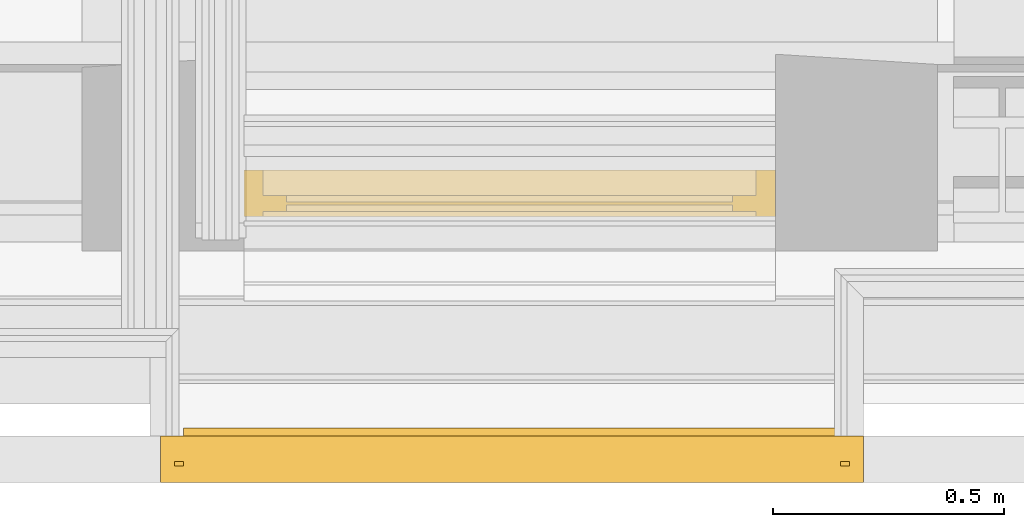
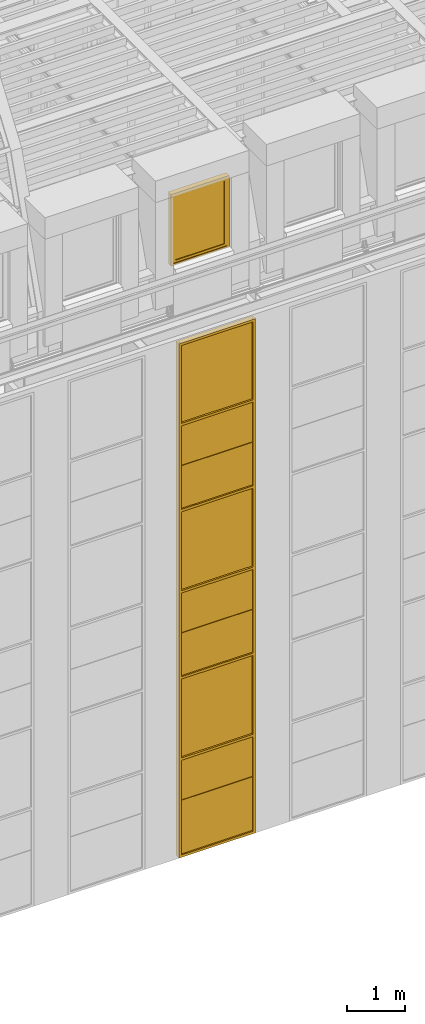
# One storey, part 109 of 183: 1 curtain wall, 1 window.
"""IFC2X3 building model written with IfcOpenShell, lengths in metres."""

from ifc_helpers import new_model, entity, si_unit, converted_unit, derived_unit, money_unit, direction, frame, origin_with_axes, place, context, subcontext, project, spatial, faceted_brep, material, type_object, element, save


model = new_model("IFC2X3")

# Units and contexts
model_context = context("Model", 3, precision=1e-05, world=origin_with_axes(), true_north=direction((0.0, 1.0)))
body_context = subcontext(model_context, "Body", "Model", "MODEL_VIEW", scale=1.0)
ifc_project = project(units=[si_unit("LENGTHUNIT", "METRE"), si_unit("AREAUNIT", "SQUARE_METRE"), si_unit("VOLUMEUNIT", "CUBIC_METRE"), si_unit("ABSORBEDDOSEUNIT", "GRAY"), si_unit("AMOUNTOFSUBSTANCEUNIT", "MOLE"), si_unit("DOSEEQUIVALENTUNIT", "SIEVERT"), si_unit("ELECTRICCAPACITANCEUNIT", "FARAD"), si_unit("ELECTRICCHARGEUNIT", "COULOMB"), si_unit("ELECTRICCONDUCTANCEUNIT", "SIEMENS"), si_unit("ELECTRICCURRENTUNIT", "AMPERE"), si_unit("ELECTRICRESISTANCEUNIT", "OHM"), si_unit("ELECTRICVOLTAGEUNIT", "VOLT"), si_unit("ENERGYUNIT", "JOULE"), si_unit("FORCEUNIT", "NEWTON"), si_unit("FREQUENCYUNIT", "HERTZ"), si_unit("ILLUMINANCEUNIT", "LUX"), si_unit("INDUCTANCEUNIT", "HENRY"), si_unit("LUMINOUSFLUXUNIT", "LUMEN"), si_unit("LUMINOUSINTENSITYUNIT", "CANDELA"), si_unit("MAGNETICFLUXDENSITYUNIT", "TESLA"), si_unit("MAGNETICFLUXUNIT", "WEBER"), si_unit("MASSUNIT", "GRAM"), converted_unit("PLANEANGLEUNIT", "degree", entity("IfcReal", 0.0174532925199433), si_unit("PLANEANGLEUNIT", "RADIAN"), dimensions=[0, 0, 0, 0, 0, 0, 0]), si_unit("POWERUNIT", "WATT"), si_unit("PRESSUREUNIT", "PASCAL"), si_unit("RADIOACTIVITYUNIT", "BECQUEREL"), si_unit("SOLIDANGLEUNIT", "STERADIAN"), si_unit("THERMODYNAMICTEMPERATUREUNIT", "KELVIN"), si_unit("TIMEUNIT", "SECOND"), derived_unit("ACCELERATIONUNIT", [(si_unit("LENGTHUNIT", "METRE"), 1), (si_unit("TIMEUNIT", "SECOND"), -2)]), derived_unit("ANGULARVELOCITYUNIT", [(converted_unit("PLANEANGLEUNIT", "degree", entity("IfcReal", 0.0174532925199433), si_unit("PLANEANGLEUNIT", "RADIAN"), dimensions=[0, 0, 0, 0, 0, 0, 0]), 1), (si_unit("TIMEUNIT", "SECOND"), -1)]), derived_unit("CURVATUREUNIT", [(converted_unit("PLANEANGLEUNIT", "degree", entity("IfcReal", 0.0174532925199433), si_unit("PLANEANGLEUNIT", "RADIAN"), dimensions=[0, 0, 0, 0, 0, 0, 0]), 1), (si_unit("LENGTHUNIT", "METRE"), -1)]), derived_unit("DYNAMICVISCOSITYUNIT", [(si_unit("PRESSUREUNIT", "PASCAL"), 1), (si_unit("TIMEUNIT", "SECOND"), 1)]), derived_unit("HEATFLUXDENSITYUNIT", [(si_unit("POWERUNIT", "WATT"), 1), (si_unit("LENGTHUNIT", "METRE"), -2)]), derived_unit("HEATINGVALUEUNIT", [(si_unit("ENERGYUNIT", "JOULE"), 1), (si_unit("MASSUNIT", "GRAM"), -1)]), derived_unit("INTEGERCOUNTRATEUNIT", [(si_unit("TIMEUNIT", "SECOND"), -1)]), derived_unit("IONCONCENTRATIONUNIT", [(si_unit("MASSUNIT", "GRAM"), 1), (si_unit("VOLUMEUNIT", "CUBIC_METRE"), -1)]), derived_unit("ISOTHERMALMOISTURECAPACITYUNIT", [(si_unit("VOLUMEUNIT", "CUBIC_METRE"), 1), (si_unit("MASSUNIT", "GRAM"), -1)]), derived_unit("KINEMATICVISCOSITYUNIT", [(si_unit("AREAUNIT", "SQUARE_METRE"), 1), (si_unit("TIMEUNIT", "SECOND"), -1)]), derived_unit("LINEARFORCEUNIT", [(si_unit("FORCEUNIT", "NEWTON"), 1), (si_unit("LENGTHUNIT", "METRE"), -1)]), derived_unit("LINEARMOMENTUNIT", [(si_unit("FORCEUNIT", "NEWTON"), 1), (si_unit("LENGTHUNIT", "METRE"), -1)]), derived_unit("LINEARSTIFFNESSUNIT", [(si_unit("FORCEUNIT", "NEWTON"), 1), (si_unit("LENGTHUNIT", "METRE"), -1)]), derived_unit("LINEARVELOCITYUNIT", [(si_unit("LENGTHUNIT", "METRE"), 1), (si_unit("TIMEUNIT", "SECOND"), -1)]), derived_unit("LUMINOUSINTENSITYDISTRIBUTIONUNIT", [(si_unit("LUMINOUSINTENSITYUNIT", "CANDELA"), 1), (si_unit("LUMINOUSFLUXUNIT", "LUMEN"), -1)]), derived_unit("MASSDENSITYUNIT", [(si_unit("MASSUNIT", "GRAM"), 1), (si_unit("VOLUMEUNIT", "CUBIC_METRE"), -1)]), derived_unit("MASSFLOWRATEUNIT", [(si_unit("MASSUNIT", "GRAM"), 1), (si_unit("TIMEUNIT", "SECOND"), -1)]), derived_unit("MASSPERLENGTHUNIT", [(si_unit("MASSUNIT", "GRAM"), 1), (si_unit("LENGTHUNIT", "METRE"), -1)]), derived_unit("MODULUSOFELASTICITYUNIT", [(si_unit("FORCEUNIT", "NEWTON"), 1), (si_unit("AREAUNIT", "SQUARE_METRE"), -1)]), derived_unit("MODULUSOFLINEARSUBGRADEREACTIONUNIT", [(si_unit("FORCEUNIT", "NEWTON"), 1), (si_unit("LENGTHUNIT", "METRE"), -2)]), derived_unit("MODULUSOFROTATIONALSUBGRADEREACTIONUNIT", [(si_unit("FORCEUNIT", "NEWTON"), 1), (si_unit("LENGTHUNIT", "METRE"), 1)]), derived_unit("MODULUSOFSUBGRADEREACTIONUNIT", [(si_unit("FORCEUNIT", "NEWTON"), 1), (si_unit("VOLUMEUNIT", "CUBIC_METRE"), -1)]), derived_unit("MOISTUREDIFFUSIVITYUNIT", [(si_unit("VOLUMEUNIT", "CUBIC_METRE"), 1), (si_unit("TIMEUNIT", "SECOND"), -1)]), derived_unit("MOLECULARWEIGHTUNIT", [(si_unit("MASSUNIT", "GRAM"), 1), (si_unit("AMOUNTOFSUBSTANCEUNIT", "MOLE"), -1)]), derived_unit("PLANARFORCEUNIT", [(si_unit("FORCEUNIT", "NEWTON"), 1), (si_unit("LENGTHUNIT", "METRE"), -2)]), derived_unit("ROTATIONALFREQUENCYUNIT", [(si_unit("TIMEUNIT", "SECOND"), -1)]), derived_unit("ROTATIONALMASSUNIT", [(si_unit("MASSUNIT", "GRAM"), 1), (si_unit("LENGTHUNIT", "METRE"), 2)]), derived_unit("ROTATIONALSTIFFNESSUNIT", [(si_unit("FORCEUNIT", "NEWTON"), 1), (si_unit("LENGTHUNIT", "METRE"), 1), (converted_unit("PLANEANGLEUNIT", "degree", entity("IfcReal", 0.0174532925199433), si_unit("PLANEANGLEUNIT", "RADIAN"), dimensions=[0, 0, 0, 0, 0, 0, 0]), -1)]), derived_unit("SECTIONAREAINTEGRALUNIT", [(si_unit("LENGTHUNIT", "METRE"), 5)]), derived_unit("SECTIONMODULUSUNIT", [(si_unit("LENGTHUNIT", "METRE"), 3)]), derived_unit("SHEARMODULUSUNIT", [(si_unit("FORCEUNIT", "NEWTON"), 1), (si_unit("AREAUNIT", "SQUARE_METRE"), -1)]), derived_unit("SOUNDPOWERUNIT", [(si_unit("ENERGYUNIT", "JOULE"), 1), (si_unit("TIMEUNIT", "SECOND"), -1)]), derived_unit("SPECIFICHEATCAPACITYUNIT", [(si_unit("FORCEUNIT", "NEWTON"), 1), (si_unit("MASSUNIT", "GRAM"), -1), (si_unit("THERMODYNAMICTEMPERATUREUNIT", "KELVIN"), -1)]), derived_unit("TEMPERATUREGRADIENTUNIT", [(si_unit("THERMODYNAMICTEMPERATUREUNIT", "KELVIN"), 1), (si_unit("LENGTHUNIT", "METRE"), -1)]), derived_unit("THERMALADMITTANCEUNIT", [(si_unit("POWERUNIT", "WATT"), 1), (si_unit("AREAUNIT", "SQUARE_METRE"), -1), (si_unit("THERMODYNAMICTEMPERATUREUNIT", "KELVIN"), -1)]), derived_unit("THERMALCONDUCTANCEUNIT", [(si_unit("POWERUNIT", "WATT"), 1), (si_unit("LENGTHUNIT", "METRE"), -1), (si_unit("THERMODYNAMICTEMPERATUREUNIT", "KELVIN"), -1)]), derived_unit("THERMALEXPANSIONCOEFFICIENTUNIT", [(si_unit("THERMODYNAMICTEMPERATUREUNIT", "KELVIN"), -1)]), derived_unit("THERMALRESISTANCEUNIT", [(si_unit("AREAUNIT", "SQUARE_METRE"), 1), (si_unit("POWERUNIT", "WATT"), -1)]), derived_unit("THERMALTRANSMITTANCEUNIT", [(si_unit("POWERUNIT", "WATT"), 1), (si_unit("AREAUNIT", "SQUARE_METRE"), -1), (si_unit("THERMODYNAMICTEMPERATUREUNIT", "KELVIN"), -1)]), derived_unit("TORQUEUNIT", [(si_unit("FORCEUNIT", "NEWTON"), 1), (si_unit("LENGTHUNIT", "METRE"), 1)]), derived_unit("VAPORPERMEABILITYUNIT", [(si_unit("MASSUNIT", "GRAM"), 1), (si_unit("TIMEUNIT", "SECOND"), -1)]), derived_unit("VOLUMETRICFLOWRATEUNIT", [(si_unit("VOLUMEUNIT", "CUBIC_METRE"), 1), (si_unit("TIMEUNIT", "SECOND"), -1)]), derived_unit("WARPINGCONSTANTUNIT", [(si_unit("LENGTHUNIT", "METRE"), 6)]), derived_unit("WARPINGMOMENTUNIT", [(si_unit("FORCEUNIT", "NEWTON"), 1), (si_unit("LENGTHUNIT", "METRE"), 2)]), money_unit("GBP")], contexts=[model_context])

# Site, building, storey
site_placement = place(None, origin_with_axes())
site = spatial("IfcSite", under=ifc_project, at=site_placement, Name="Site", CompositionType="ELEMENT")
building_placement = place(site_placement, origin_with_axes())
building = spatial("IfcBuilding", under=site, at=building_placement, Name="Building01", CompositionType="ELEMENT")
storey_placement = place(building_placement, frame((0.0, 0.0, 5.15), z_axis=(0.0, 0.0, 1.0), x_axis=(1.0, 0.0, 0.0)))
storey = spatial("IfcBuildingStorey", under=building, at=storey_placement, Name="1F", CompositionType="ELEMENT", Elevation=5.15)

# Curtain wall
ifc_material_1 = material(Name="A-CurtainWall_Frame")
curtain_wall_type = type_object("IfcCurtainWallType", Name="Pattern - Maximum Spacing", PredefinedType="NOTDEFINED")
curtain_wall_placement = place(storey_placement, frame((0.0, 0.0, -5.15), z_axis=(0.0, 0.0, 1.0), x_axis=(1.0, 0.0, 0.0)))
element("IfcCurtainWall", 1, at=curtain_wall_placement, inside=storey, type_object=curtain_wall_type, material=ifc_material_1, Name="19", ObjectType="Pattern - Maximum Spacing", context=body_context, shape_type="Brep", body=[
    faceted_brep([(7.3, 0.05, 4.0), (7.3, 0.03, 4.0), (7.3, 0.03, 5.118945), (7.3, 0.05, 5.118945), (8.76, 0.05, 4.0), (8.76, 0.03, 4.0), (8.76, 0.05, 5.118945), (8.76, 0.03, 5.118945)], [[[0, 1, 2, 3]], [[4, 5, 1, 0]], [[6, 7, 5, 4]], [[3, 2, 7, 6]], [[1, 5, 7, 2]], [[3, 6, 4, 0]]]),
    faceted_brep([(7.32, 0.045, 3.97), (7.3, 0.045, 3.97), (7.3, 0.035, 3.97), (7.32, 0.035, 3.97), (7.32, 0.0, 3.97), (7.27, 0.0, 3.97), (7.27, 0.1, 3.97), (7.32, 0.1, 3.97), (7.32, 0.1, 5.123945), (7.32, 0.045, 5.123945), (7.3, 0.045, 5.123945), (7.3, 0.035, 5.123945), (7.32, 0.035, 5.123945), (7.32, 0.0, 5.123945), (7.27, 0.0, 5.123945), (7.27, 0.1, 5.123945)], [[[0, 1, 2, 3, 4, 5, 6, 7]], [[7, 8, 9, 0]], [[0, 9, 10, 1]], [[1, 10, 11, 2]], [[2, 11, 12, 3]], [[3, 12, 13, 4]], [[4, 13, 14, 5]], [[5, 14, 15, 6]], [[6, 15, 8, 7]]]),
    faceted_brep([(8.74, 0.045, 4.0), (8.74, 0.035, 4.0), (8.74, 0.035, 4.02), (8.74, 0.0, 4.02), (8.74, 0.0, 3.97), (8.74, 0.1, 3.97), (8.74, 0.1, 4.02), (8.74, 0.045, 4.02), (7.32, 0.045, 4.02), (7.32, 0.045, 4.0), (7.32, 0.035, 4.0), (7.32, 0.035, 4.02), (7.32, 0.0, 4.02), (7.32, 0.0, 3.97), (7.32, 0.1, 3.97), (7.32, 0.1, 4.02)], [[[0, 1, 2, 3, 4, 5, 6, 7]], [[7, 8, 9, 0]], [[0, 9, 10, 1]], [[1, 10, 11, 2]], [[2, 11, 12, 3]], [[3, 12, 13, 4]], [[4, 13, 14, 5]], [[5, 14, 15, 6]], [[6, 15, 8, 7]], [[8, 15, 14, 13, 12, 11, 10, 9]]]),
    faceted_brep([(8.74, 0.045, 3.97), (8.74, 0.045, 5.123945), (8.74, 0.1, 5.123945), (8.74, 0.1, 3.97), (8.76, 0.045, 3.97), (8.76, 0.045, 5.123945), (8.76, 0.035, 3.97), (8.76, 0.035, 5.123945), (8.74, 0.035, 3.97), (8.74, 0.035, 5.123945), (8.74, 0.0, 3.97), (8.74, 0.0, 5.123945), (8.79, 0.0, 3.97), (8.79, 0.0, 5.123945), (8.79, 0.1, 3.97), (8.79, 0.1, 5.123945)], [[[0, 1, 2, 3]], [[4, 5, 1, 0]], [[6, 7, 5, 4]], [[8, 9, 7, 6]], [[10, 11, 9, 8]], [[12, 13, 11, 10]], [[14, 15, 13, 12]], [[3, 2, 15, 14]], [[14, 12, 10, 8, 6, 4, 0, 3]]]),
    faceted_brep([(7.32, 0.0625, 5.118945), (7.32, 0.0525, 5.118945), (7.32, 0.0525, 5.098945), (7.32, 0.0175, 5.098945), (7.32, 0.0175, 5.148945), (7.32, 0.0525, 5.148945), (7.32, 0.0525, 5.128945), (7.32, 0.0625, 5.128945), (7.32, 0.0625, 5.148945), (7.32, 0.1175, 5.148945), (7.32, 0.1175, 5.098945), (7.32, 0.0625, 5.098945), (8.74, 0.0625, 5.098945), (8.74, 0.0625, 5.118945), (8.74, 0.0525, 5.118945), (8.74, 0.0525, 5.098945), (8.74, 0.0175, 5.098945), (8.74, 0.0175, 5.148945), (8.74, 0.0525, 5.148945), (8.74, 0.0625, 5.128945), (8.74, 0.0625, 5.148945), (8.74, 0.0525, 5.128945), (8.74, 0.1175, 5.098945), (8.74, 0.1175, 5.148945)], [[[0, 1, 2, 3, 4, 5, 6, 7, 8, 9, 10, 11]], [[11, 12, 13, 0]], [[0, 13, 14, 1]], [[1, 14, 15, 2]], [[2, 15, 16, 3]], [[3, 16, 17, 4]], [[4, 17, 18, 5]], [[7, 19, 20, 8]], [[6, 21, 19, 7]], [[5, 18, 21, 6]], [[10, 22, 12, 11]], [[9, 23, 22, 10]], [[8, 20, 23, 9]], [[20, 19, 21, 18, 17, 16, 15, 14, 13, 12, 22, 23]]]),
    faceted_brep([(7.3, 0.05, 5.128945), (7.3, 0.03, 5.128945), (7.3, 0.03, 6.018105), (7.3, 0.05, 6.018105), (8.76, 0.05, 5.128945), (8.76, 0.03, 5.128945), (8.76, 0.05, 6.018105), (8.76, 0.03, 6.018105)], [[[0, 1, 2, 3]], [[4, 5, 1, 0]], [[6, 7, 5, 4]], [[3, 2, 7, 6]], [[1, 5, 7, 2]], [[3, 6, 4, 0]]]),
    faceted_brep([(7.27, 0.1, 6.023105), (7.27, 0.1, 5.123945), (7.27, 0.0, 5.123945), (7.27, 0.0, 6.023105), (7.32, 0.1, 6.023105), (7.32, 0.1, 5.123945), (7.32, 0.045, 6.023105), (7.32, 0.045, 5.123945), (7.3, 0.045, 6.023105), (7.3, 0.045, 5.123945), (7.3, 0.035, 6.023105), (7.3, 0.035, 5.123945), (7.32, 0.035, 6.023105), (7.32, 0.035, 5.123945), (7.32, 0.0, 6.023105), (7.32, 0.0, 5.123945)], [[[0, 1, 2, 3]], [[4, 5, 1, 0]], [[6, 7, 5, 4]], [[8, 9, 7, 6]], [[10, 11, 9, 8]], [[12, 13, 11, 10]], [[14, 15, 13, 12]], [[3, 2, 15, 14]]]),
    faceted_brep([(8.74, 0.045, 5.123945), (8.74, 0.045, 6.023105), (8.74, 0.1, 6.023105), (8.74, 0.1, 5.123945), (8.76, 0.045, 5.123945), (8.76, 0.045, 6.023105), (8.76, 0.035, 5.123945), (8.76, 0.035, 6.023105), (8.74, 0.035, 5.123945), (8.74, 0.035, 6.023105), (8.74, 0.0, 5.123945), (8.74, 0.0, 6.023105), (8.79, 0.0, 5.123945), (8.79, 0.0, 6.023105), (8.79, 0.1, 5.123945), (8.79, 0.1, 6.023105)], [[[0, 1, 2, 3]], [[4, 5, 1, 0]], [[6, 7, 5, 4]], [[8, 9, 7, 6]], [[10, 11, 9, 8]], [[12, 13, 11, 10]], [[14, 15, 13, 12]], [[3, 2, 15, 14]]]),
    faceted_brep([(7.32, 0.045, 6.018105), (7.32, 0.035, 6.018105), (7.32, 0.035, 5.998105), (7.32, 0.0, 5.998105), (7.32, 0.0, 6.048105), (7.32, 0.035, 6.048105), (7.32, 0.035, 6.028105), (7.32, 0.045, 6.028105), (7.32, 0.045, 6.048105), (7.32, 0.1, 6.048105), (7.32, 0.1, 5.998105), (7.32, 0.045, 5.998105), (8.74, 0.045, 5.998105), (8.74, 0.045, 6.018105), (8.74, 0.035, 6.018105), (8.74, 0.035, 5.998105), (8.74, 0.0, 5.998105), (8.74, 0.0, 6.048105), (8.74, 0.035, 6.048105), (8.74, 0.045, 6.028105), (8.74, 0.045, 6.048105), (8.74, 0.035, 6.028105), (8.74, 0.1, 5.998105), (8.74, 0.1, 6.048105)], [[[0, 1, 2, 3, 4, 5, 6, 7, 8, 9, 10, 11]], [[11, 12, 13, 0]], [[0, 13, 14, 1]], [[1, 14, 15, 2]], [[2, 15, 16, 3]], [[3, 16, 17, 4]], [[4, 17, 18, 5]], [[7, 19, 20, 8]], [[6, 21, 19, 7]], [[5, 18, 21, 6]], [[10, 22, 12, 11]], [[9, 23, 22, 10]], [[8, 20, 23, 9]], [[20, 19, 21, 18, 17, 16, 15, 14, 13, 12, 22, 23]]]),
    faceted_brep([(7.3, 0.045, 6.028105), (7.3, 0.035, 6.028105), (7.3, 0.035, 7.716517), (7.3, 0.045, 7.716517), (8.76, 0.045, 6.028105), (8.76, 0.035, 6.028105), (8.76, 0.045, 7.716517), (8.76, 0.035, 7.716517)], [[[0, 1, 2, 3]], [[4, 5, 1, 0]], [[6, 7, 5, 4]], [[3, 2, 7, 6]], [[1, 5, 7, 2]], [[3, 6, 4, 0]]]),
    faceted_brep([(7.27, 0.1, 7.721517), (7.27, 0.1, 6.023105), (7.27, 0.0, 6.023105), (7.27, 0.0, 7.721517), (7.32, 0.1, 7.721517), (7.32, 0.1, 6.023105), (7.32, 0.045, 7.721517), (7.32, 0.045, 6.023105), (7.3, 0.045, 7.721517), (7.3, 0.045, 6.023105), (7.3, 0.035, 7.721517), (7.3, 0.035, 6.023105), (7.32, 0.035, 7.721517), (7.32, 0.035, 6.023105), (7.32, 0.0, 7.721517), (7.32, 0.0, 6.023105)], [[[0, 1, 2, 3]], [[4, 5, 1, 0]], [[6, 7, 5, 4]], [[8, 9, 7, 6]], [[10, 11, 9, 8]], [[12, 13, 11, 10]], [[14, 15, 13, 12]], [[3, 2, 15, 14]]]),
    faceted_brep([(8.74, 0.045, 6.023105), (8.74, 0.045, 7.721517), (8.74, 0.1, 7.721517), (8.74, 0.1, 6.023105), (8.76, 0.045, 6.023105), (8.76, 0.045, 7.721517), (8.76, 0.035, 6.023105), (8.76, 0.035, 7.721517), (8.74, 0.035, 6.023105), (8.74, 0.035, 7.721517), (8.74, 0.0, 6.023105), (8.74, 0.0, 7.721517), (8.79, 0.0, 6.023105), (8.79, 0.0, 7.721517), (8.79, 0.1, 6.023105), (8.79, 0.1, 7.721517)], [[[0, 1, 2, 3]], [[4, 5, 1, 0]], [[6, 7, 5, 4]], [[8, 9, 7, 6]], [[10, 11, 9, 8]], [[12, 13, 11, 10]], [[14, 15, 13, 12]], [[3, 2, 15, 14]]]),
    faceted_brep([(7.32, 0.045, 7.716517), (7.32, 0.035, 7.716517), (7.32, 0.035, 7.696517), (7.32, 0.0, 7.696517), (7.32, 0.0, 7.746517), (7.32, 0.035, 7.746517), (7.32, 0.035, 7.726517), (7.32, 0.045, 7.726517), (7.32, 0.045, 7.746517), (7.32, 0.1, 7.746517), (7.32, 0.1, 7.696517), (7.32, 0.045, 7.696517), (8.74, 0.045, 7.696517), (8.74, 0.045, 7.716517), (8.74, 0.035, 7.716517), (8.74, 0.035, 7.696517), (8.74, 0.0, 7.696517), (8.74, 0.0, 7.746517), (8.74, 0.035, 7.746517), (8.74, 0.045, 7.726517), (8.74, 0.045, 7.746517), (8.74, 0.035, 7.726517), (8.74, 0.1, 7.696517), (8.74, 0.1, 7.746517)], [[[0, 1, 2, 3, 4, 5, 6, 7, 8, 9, 10, 11]], [[11, 12, 13, 0]], [[0, 13, 14, 1]], [[1, 14, 15, 2]], [[2, 15, 16, 3]], [[3, 16, 17, 4]], [[4, 17, 18, 5]], [[7, 19, 20, 8]], [[6, 21, 19, 7]], [[5, 18, 21, 6]], [[10, 22, 12, 11]], [[9, 23, 22, 10]], [[8, 20, 23, 9]], [[20, 19, 21, 18, 17, 16, 15, 14, 13, 12, 22, 23]]]),
    faceted_brep([(7.3, 0.05, 7.726517), (7.3, 0.03, 7.726517), (7.3, 0.03, 8.615677), (7.3, 0.05, 8.615677), (8.76, 0.05, 7.726517), (8.76, 0.03, 7.726517), (8.76, 0.05, 8.615677), (8.76, 0.03, 8.615677)], [[[0, 1, 2, 3]], [[4, 5, 1, 0]], [[6, 7, 5, 4]], [[3, 2, 7, 6]], [[1, 5, 7, 2]], [[3, 6, 4, 0]]]),
    faceted_brep([(7.27, 0.1, 8.620677), (7.27, 0.1, 7.721517), (7.27, 0.0, 7.721517), (7.27, 0.0, 8.620677), (7.32, 0.1, 8.620677), (7.32, 0.1, 7.721517), (7.32, 0.045, 8.620677), (7.32, 0.045, 7.721517), (7.3, 0.045, 8.620677), (7.3, 0.045, 7.721517), (7.3, 0.035, 8.620677), (7.3, 0.035, 7.721517), (7.32, 0.035, 8.620677), (7.32, 0.035, 7.721517), (7.32, 0.0, 8.620677), (7.32, 0.0, 7.721517)], [[[0, 1, 2, 3]], [[4, 5, 1, 0]], [[6, 7, 5, 4]], [[8, 9, 7, 6]], [[10, 11, 9, 8]], [[12, 13, 11, 10]], [[14, 15, 13, 12]], [[3, 2, 15, 14]]]),
    faceted_brep([(8.74, 0.045, 7.721517), (8.74, 0.045, 8.620677), (8.74, 0.1, 8.620677), (8.74, 0.1, 7.721517), (8.76, 0.045, 7.721517), (8.76, 0.045, 8.620677), (8.76, 0.035, 7.721517), (8.76, 0.035, 8.620677), (8.74, 0.035, 7.721517), (8.74, 0.035, 8.620677), (8.74, 0.0, 7.721517), (8.74, 0.0, 8.620677), (8.79, 0.0, 7.721517), (8.79, 0.0, 8.620677), (8.79, 0.1, 7.721517), (8.79, 0.1, 8.620677)], [[[0, 1, 2, 3]], [[4, 5, 1, 0]], [[6, 7, 5, 4]], [[8, 9, 7, 6]], [[10, 11, 9, 8]], [[12, 13, 11, 10]], [[14, 15, 13, 12]], [[3, 2, 15, 14]]]),
    faceted_brep([(7.32, 0.0625, 8.615677), (7.32, 0.0525, 8.615677), (7.32, 0.0525, 8.595677), (7.32, 0.0175, 8.595677), (7.32, 0.0175, 8.645677), (7.32, 0.0525, 8.645677), (7.32, 0.0525, 8.625677), (7.32, 0.0625, 8.625677), (7.32, 0.0625, 8.645677), (7.32, 0.1175, 8.645677), (7.32, 0.1175, 8.595677), (7.32, 0.0625, 8.595677), (8.74, 0.0625, 8.595677), (8.74, 0.0625, 8.615677), (8.74, 0.0525, 8.615677), (8.74, 0.0525, 8.595677), (8.74, 0.0175, 8.595677), (8.74, 0.0175, 8.645677), (8.74, 0.0525, 8.645677), (8.74, 0.0625, 8.625677), (8.74, 0.0625, 8.645677), (8.74, 0.0525, 8.625677), (8.74, 0.1175, 8.595677), (8.74, 0.1175, 8.645677)], [[[0, 1, 2, 3, 4, 5, 6, 7, 8, 9, 10, 11]], [[11, 12, 13, 0]], [[0, 13, 14, 1]], [[1, 14, 15, 2]], [[2, 15, 16, 3]], [[3, 16, 17, 4]], [[4, 17, 18, 5]], [[7, 19, 20, 8]], [[6, 21, 19, 7]], [[5, 18, 21, 6]], [[10, 22, 12, 11]], [[9, 23, 22, 10]], [[8, 20, 23, 9]], [[20, 19, 21, 18, 17, 16, 15, 14, 13, 12, 22, 23]]]),
    faceted_brep([(7.3, 0.05, 8.625677), (7.3, 0.03, 8.625677), (7.3, 0.03, 9.514837), (7.3, 0.05, 9.514837), (8.76, 0.05, 8.625677), (8.76, 0.03, 8.625677), (8.76, 0.05, 9.514837), (8.76, 0.03, 9.514837)], [[[0, 1, 2, 3]], [[4, 5, 1, 0]], [[6, 7, 5, 4]], [[3, 2, 7, 6]], [[1, 5, 7, 2]], [[3, 6, 4, 0]]]),
    faceted_brep([(7.27, 0.1, 9.519837), (7.27, 0.1, 8.620677), (7.27, 0.0, 8.620677), (7.27, 0.0, 9.519837), (7.32, 0.1, 9.519837), (7.32, 0.1, 8.620677), (7.32, 0.045, 9.519837), (7.32, 0.045, 8.620677), (7.3, 0.045, 9.519837), (7.3, 0.045, 8.620677), (7.3, 0.035, 9.519837), (7.3, 0.035, 8.620677), (7.32, 0.035, 9.519837), (7.32, 0.035, 8.620677), (7.32, 0.0, 9.519837), (7.32, 0.0, 8.620677)], [[[0, 1, 2, 3]], [[4, 5, 1, 0]], [[6, 7, 5, 4]], [[8, 9, 7, 6]], [[10, 11, 9, 8]], [[12, 13, 11, 10]], [[14, 15, 13, 12]], [[3, 2, 15, 14]]]),
    faceted_brep([(8.74, 0.045, 8.620677), (8.74, 0.045, 9.519837), (8.74, 0.1, 9.519837), (8.74, 0.1, 8.620677), (8.76, 0.045, 8.620677), (8.76, 0.045, 9.519837), (8.76, 0.035, 8.620677), (8.76, 0.035, 9.519837), (8.74, 0.035, 8.620677), (8.74, 0.035, 9.519837), (8.74, 0.0, 8.620677), (8.74, 0.0, 9.519837), (8.79, 0.0, 8.620677), (8.79, 0.0, 9.519837), (8.79, 0.1, 8.620677), (8.79, 0.1, 9.519837)], [[[0, 1, 2, 3]], [[4, 5, 1, 0]], [[6, 7, 5, 4]], [[8, 9, 7, 6]], [[10, 11, 9, 8]], [[12, 13, 11, 10]], [[14, 15, 13, 12]], [[3, 2, 15, 14]]]),
    faceted_brep([(7.32, 0.045, 9.514837), (7.32, 0.035, 9.514837), (7.32, 0.035, 9.494837), (7.32, 0.0, 9.494837), (7.32, 0.0, 9.544837), (7.32, 0.035, 9.544837), (7.32, 0.035, 9.524837), (7.32, 0.045, 9.524837), (7.32, 0.045, 9.544837), (7.32, 0.1, 9.544837), (7.32, 0.1, 9.494837), (7.32, 0.045, 9.494837), (8.74, 0.045, 9.494837), (8.74, 0.045, 9.514837), (8.74, 0.035, 9.514837), (8.74, 0.035, 9.494837), (8.74, 0.0, 9.494837), (8.74, 0.0, 9.544837), (8.74, 0.035, 9.544837), (8.74, 0.045, 9.524837), (8.74, 0.045, 9.544837), (8.74, 0.035, 9.524837), (8.74, 0.1, 9.494837), (8.74, 0.1, 9.544837)], [[[0, 1, 2, 3, 4, 5, 6, 7, 8, 9, 10, 11]], [[11, 12, 13, 0]], [[0, 13, 14, 1]], [[1, 14, 15, 2]], [[2, 15, 16, 3]], [[3, 16, 17, 4]], [[4, 17, 18, 5]], [[7, 19, 20, 8]], [[6, 21, 19, 7]], [[5, 18, 21, 6]], [[10, 22, 12, 11]], [[9, 23, 22, 10]], [[8, 20, 23, 9]], [[20, 19, 21, 18, 17, 16, 15, 14, 13, 12, 22, 23]]]),
    faceted_brep([(7.3, 0.045, 9.524837), (7.3, 0.035, 9.524837), (7.3, 0.035, 11.213249), (7.3, 0.045, 11.213249), (8.76, 0.045, 9.524837), (8.76, 0.035, 9.524837), (8.76, 0.045, 11.213249), (8.76, 0.035, 11.213249)], [[[0, 1, 2, 3]], [[4, 5, 1, 0]], [[6, 7, 5, 4]], [[3, 2, 7, 6]], [[1, 5, 7, 2]], [[3, 6, 4, 0]]]),
    faceted_brep([(7.27, 0.1, 11.218249), (7.27, 0.1, 9.519837), (7.27, 0.0, 9.519837), (7.27, 0.0, 11.218249), (7.32, 0.1, 11.218249), (7.32, 0.1, 9.519837), (7.32, 0.045, 11.218249), (7.32, 0.045, 9.519837), (7.3, 0.045, 11.218249), (7.3, 0.045, 9.519837), (7.3, 0.035, 11.218249), (7.3, 0.035, 9.519837), (7.32, 0.035, 11.218249), (7.32, 0.035, 9.519837), (7.32, 0.0, 11.218249), (7.32, 0.0, 9.519837)], [[[0, 1, 2, 3]], [[4, 5, 1, 0]], [[6, 7, 5, 4]], [[8, 9, 7, 6]], [[10, 11, 9, 8]], [[12, 13, 11, 10]], [[14, 15, 13, 12]], [[3, 2, 15, 14]]]),
    faceted_brep([(8.74, 0.045, 9.519837), (8.74, 0.045, 11.218249), (8.74, 0.1, 11.218249), (8.74, 0.1, 9.519837), (8.76, 0.045, 9.519837), (8.76, 0.045, 11.218249), (8.76, 0.035, 9.519837), (8.76, 0.035, 11.218249), (8.74, 0.035, 9.519837), (8.74, 0.035, 11.218249), (8.74, 0.0, 9.519837), (8.74, 0.0, 11.218249), (8.79, 0.0, 9.519837), (8.79, 0.0, 11.218249), (8.79, 0.1, 9.519837), (8.79, 0.1, 11.218249)], [[[0, 1, 2, 3]], [[4, 5, 1, 0]], [[6, 7, 5, 4]], [[8, 9, 7, 6]], [[10, 11, 9, 8]], [[12, 13, 11, 10]], [[14, 15, 13, 12]], [[3, 2, 15, 14]]]),
    faceted_brep([(7.32, 0.045, 11.213249), (7.32, 0.035, 11.213249), (7.32, 0.035, 11.193249), (7.32, 0.0, 11.193249), (7.32, 0.0, 11.243249), (7.32, 0.035, 11.243249), (7.32, 0.035, 11.223249), (7.32, 0.045, 11.223249), (7.32, 0.045, 11.243249), (7.32, 0.1, 11.243249), (7.32, 0.1, 11.193249), (7.32, 0.045, 11.193249), (8.74, 0.045, 11.193249), (8.74, 0.045, 11.213249), (8.74, 0.035, 11.213249), (8.74, 0.035, 11.193249), (8.74, 0.0, 11.193249), (8.74, 0.0, 11.243249), (8.74, 0.035, 11.243249), (8.74, 0.045, 11.223249), (8.74, 0.045, 11.243249), (8.74, 0.035, 11.223249), (8.74, 0.1, 11.193249), (8.74, 0.1, 11.243249)], [[[0, 1, 2, 3, 4, 5, 6, 7, 8, 9, 10, 11]], [[11, 12, 13, 0]], [[0, 13, 14, 1]], [[1, 14, 15, 2]], [[2, 15, 16, 3]], [[3, 16, 17, 4]], [[4, 17, 18, 5]], [[7, 19, 20, 8]], [[6, 21, 19, 7]], [[5, 18, 21, 6]], [[10, 22, 12, 11]], [[9, 23, 22, 10]], [[8, 20, 23, 9]], [[20, 19, 21, 18, 17, 16, 15, 14, 13, 12, 22, 23]]]),
    faceted_brep([(7.3, 0.05, 11.223249), (7.3, 0.03, 11.223249), (7.3, 0.03, 12.112409), (7.3, 0.05, 12.112409), (8.76, 0.05, 11.223249), (8.76, 0.03, 11.223249), (8.76, 0.05, 12.112409), (8.76, 0.03, 12.112409)], [[[0, 1, 2, 3]], [[4, 5, 1, 0]], [[6, 7, 5, 4]], [[3, 2, 7, 6]], [[1, 5, 7, 2]], [[3, 6, 4, 0]]]),
    faceted_brep([(7.27, 0.1, 12.117409), (7.27, 0.1, 11.218249), (7.27, 0.0, 11.218249), (7.27, 0.0, 12.117409), (7.32, 0.1, 12.117409), (7.32, 0.1, 11.218249), (7.32, 0.045, 12.117409), (7.32, 0.045, 11.218249), (7.3, 0.045, 12.117409), (7.3, 0.045, 11.218249), (7.3, 0.035, 12.117409), (7.3, 0.035, 11.218249), (7.32, 0.035, 12.117409), (7.32, 0.035, 11.218249), (7.32, 0.0, 12.117409), (7.32, 0.0, 11.218249)], [[[0, 1, 2, 3]], [[4, 5, 1, 0]], [[6, 7, 5, 4]], [[8, 9, 7, 6]], [[10, 11, 9, 8]], [[12, 13, 11, 10]], [[14, 15, 13, 12]], [[3, 2, 15, 14]]]),
    faceted_brep([(8.74, 0.045, 11.218249), (8.74, 0.045, 12.117409), (8.74, 0.1, 12.117409), (8.74, 0.1, 11.218249), (8.76, 0.045, 11.218249), (8.76, 0.045, 12.117409), (8.76, 0.035, 11.218249), (8.76, 0.035, 12.117409), (8.74, 0.035, 11.218249), (8.74, 0.035, 12.117409), (8.74, 0.0, 11.218249), (8.74, 0.0, 12.117409), (8.79, 0.0, 11.218249), (8.79, 0.0, 12.117409), (8.79, 0.1, 11.218249), (8.79, 0.1, 12.117409)], [[[0, 1, 2, 3]], [[4, 5, 1, 0]], [[6, 7, 5, 4]], [[8, 9, 7, 6]], [[10, 11, 9, 8]], [[12, 13, 11, 10]], [[14, 15, 13, 12]], [[3, 2, 15, 14]]]),
    faceted_brep([(7.32, 0.0625, 12.112409), (7.32, 0.0525, 12.112409), (7.32, 0.0525, 12.092409), (7.32, 0.0175, 12.092409), (7.32, 0.0175, 12.142409), (7.32, 0.0525, 12.142409), (7.32, 0.0525, 12.122409), (7.32, 0.0625, 12.122409), (7.32, 0.0625, 12.142409), (7.32, 0.1175, 12.142409), (7.32, 0.1175, 12.092409), (7.32, 0.0625, 12.092409), (8.74, 0.0625, 12.092409), (8.74, 0.0625, 12.112409), (8.74, 0.0525, 12.112409), (8.74, 0.0525, 12.092409), (8.74, 0.0175, 12.092409), (8.74, 0.0175, 12.142409), (8.74, 0.0525, 12.142409), (8.74, 0.0625, 12.122409), (8.74, 0.0625, 12.142409), (8.74, 0.0525, 12.122409), (8.74, 0.1175, 12.092409), (8.74, 0.1175, 12.142409)], [[[0, 1, 2, 3, 4, 5, 6, 7, 8, 9, 10, 11]], [[11, 12, 13, 0]], [[0, 13, 14, 1]], [[1, 14, 15, 2]], [[2, 15, 16, 3]], [[3, 16, 17, 4]], [[4, 17, 18, 5]], [[7, 19, 20, 8]], [[6, 21, 19, 7]], [[5, 18, 21, 6]], [[10, 22, 12, 11]], [[9, 23, 22, 10]], [[8, 20, 23, 9]], [[20, 19, 21, 18, 17, 16, 15, 14, 13, 12, 22, 23]]]),
    faceted_brep([(8.76, 0.045, 14.69), (8.76, 0.035, 14.69), (8.76, 0.035, 13.021569), (8.76, 0.045, 13.021569), (7.3, 0.045, 14.69), (7.3, 0.035, 14.69), (7.3, 0.045, 13.021569), (7.3, 0.035, 13.021569)], [[[0, 1, 2, 3]], [[4, 5, 1, 0]], [[6, 7, 5, 4]], [[3, 2, 7, 6]], [[1, 5, 7, 2]], [[3, 6, 4, 0]]]),
    faceted_brep([(8.74, 0.045, 14.72), (8.76, 0.045, 14.72), (8.76, 0.035, 14.72), (8.74, 0.035, 14.72), (8.74, 0.0, 14.72), (8.79, 0.0, 14.72), (8.79, 0.1, 14.72), (8.74, 0.1, 14.72), (8.74, 0.1, 13.016569), (8.74, 0.045, 13.016569), (8.76, 0.045, 13.016569), (8.76, 0.035, 13.016569), (8.74, 0.035, 13.016569), (8.74, 0.0, 13.016569), (8.79, 0.0, 13.016569), (8.79, 0.1, 13.016569)], [[[0, 1, 2, 3, 4, 5, 6, 7]], [[7, 8, 9, 0]], [[0, 9, 10, 1]], [[1, 10, 11, 2]], [[2, 11, 12, 3]], [[3, 12, 13, 4]], [[4, 13, 14, 5]], [[5, 14, 15, 6]], [[6, 15, 8, 7]]]),
    faceted_brep([(7.32, 0.1, 14.67), (7.32, 0.045, 14.67), (7.32, 0.045, 14.69), (7.32, 0.035, 14.69), (7.32, 0.035, 14.67), (7.32, 0.0, 14.67), (7.32, 0.0, 14.72), (7.32, 0.1, 14.72), (8.74, 0.1, 14.72), (8.74, 0.1, 14.67), (8.74, 0.045, 14.67), (8.74, 0.045, 14.69), (8.74, 0.035, 14.69), (8.74, 0.035, 14.67), (8.74, 0.0, 14.67), (8.74, 0.0, 14.72)], [[[0, 1, 2, 3, 4, 5, 6, 7]], [[7, 8, 9, 0]], [[0, 9, 10, 1]], [[1, 10, 11, 2]], [[2, 11, 12, 3]], [[3, 12, 13, 4]], [[4, 13, 14, 5]], [[5, 14, 15, 6]], [[6, 15, 8, 7]], [[8, 15, 14, 13, 12, 11, 10, 9]]]),
    faceted_brep([(7.32, 0.045, 14.72), (7.32, 0.045, 13.016569), (7.32, 0.1, 13.016569), (7.32, 0.1, 14.72), (7.3, 0.045, 14.72), (7.3, 0.045, 13.016569), (7.3, 0.035, 14.72), (7.3, 0.035, 13.016569), (7.32, 0.035, 14.72), (7.32, 0.035, 13.016569), (7.32, 0.0, 14.72), (7.32, 0.0, 13.016569), (7.27, 0.0, 14.72), (7.27, 0.0, 13.016569), (7.27, 0.1, 14.72), (7.27, 0.1, 13.016569)], [[[0, 1, 2, 3]], [[4, 5, 1, 0]], [[6, 7, 5, 4]], [[8, 9, 7, 6]], [[10, 11, 9, 8]], [[12, 13, 11, 10]], [[14, 15, 13, 12]], [[3, 2, 15, 14]], [[14, 12, 10, 8, 6, 4, 0, 3]]]),
    faceted_brep([(8.74, 0.035, 13.011569), (8.74, 0.045, 13.011569), (8.74, 0.045, 12.991569), (8.74, 0.1, 12.991569), (8.74, 0.1, 13.041569), (8.74, 0.045, 13.041569), (8.74, 0.045, 13.021569), (8.74, 0.035, 13.021569), (8.74, 0.035, 13.041569), (8.74, 0.0, 13.041569), (8.74, 0.0, 12.991569), (8.74, 0.035, 12.991569), (7.32, 0.035, 12.991569), (7.32, 0.035, 13.011569), (7.32, 0.045, 13.011569), (7.32, 0.045, 12.991569), (7.32, 0.1, 12.991569), (7.32, 0.1, 13.041569), (7.32, 0.045, 13.041569), (7.32, 0.035, 13.021569), (7.32, 0.035, 13.041569), (7.32, 0.045, 13.021569), (7.32, 0.0, 12.991569), (7.32, 0.0, 13.041569)], [[[0, 1, 2, 3, 4, 5, 6, 7, 8, 9, 10, 11]], [[11, 12, 13, 0]], [[0, 13, 14, 1]], [[1, 14, 15, 2]], [[2, 15, 16, 3]], [[3, 16, 17, 4]], [[4, 17, 18, 5]], [[7, 19, 20, 8]], [[6, 21, 19, 7]], [[5, 18, 21, 6]], [[10, 22, 12, 11]], [[9, 23, 22, 10]], [[8, 20, 23, 9]], [[20, 19, 21, 18, 17, 16, 15, 14, 13, 12, 22, 23]]]),
    faceted_brep([(7.3, 0.05, 12.122409), (7.3, 0.03, 12.122409), (7.3, 0.03, 13.011569), (7.3, 0.05, 13.011569), (8.76, 0.05, 12.122409), (8.76, 0.03, 12.122409), (8.76, 0.05, 13.011569), (8.76, 0.03, 13.011569)], [[[0, 1, 2, 3]], [[4, 5, 1, 0]], [[6, 7, 5, 4]], [[3, 2, 7, 6]], [[1, 5, 7, 2]], [[3, 6, 4, 0]]]),
    faceted_brep([(7.27, 0.1, 13.016569), (7.27, 0.1, 12.117409), (7.27, 0.0, 12.117409), (7.27, 0.0, 13.016569), (7.32, 0.1, 13.016569), (7.32, 0.1, 12.117409), (7.32, 0.045, 13.016569), (7.32, 0.045, 12.117409), (7.3, 0.045, 13.016569), (7.3, 0.045, 12.117409), (7.3, 0.035, 13.016569), (7.3, 0.035, 12.117409), (7.32, 0.035, 13.016569), (7.32, 0.035, 12.117409), (7.32, 0.0, 13.016569), (7.32, 0.0, 12.117409)], [[[0, 1, 2, 3]], [[4, 5, 1, 0]], [[6, 7, 5, 4]], [[8, 9, 7, 6]], [[10, 11, 9, 8]], [[12, 13, 11, 10]], [[14, 15, 13, 12]], [[3, 2, 15, 14]]]),
    faceted_brep([(8.74, 0.045, 12.117409), (8.74, 0.045, 13.016569), (8.74, 0.1, 13.016569), (8.74, 0.1, 12.117409), (8.76, 0.045, 12.117409), (8.76, 0.045, 13.016569), (8.76, 0.035, 12.117409), (8.76, 0.035, 13.016569), (8.74, 0.035, 12.117409), (8.74, 0.035, 13.016569), (8.74, 0.0, 12.117409), (8.74, 0.0, 13.016569), (8.79, 0.0, 12.117409), (8.79, 0.0, 13.016569), (8.79, 0.1, 12.117409), (8.79, 0.1, 13.016569)], [[[0, 1, 2, 3]], [[4, 5, 1, 0]], [[6, 7, 5, 4]], [[8, 9, 7, 6]], [[10, 11, 9, 8]], [[12, 13, 11, 10]], [[14, 15, 13, 12]], [[3, 2, 15, 14]]]),
])

# Space
space_placement = place(storey_placement, frame((12.175, 4.189428, 9.81), z_axis=(0.0, 0.0, 1.0), x_axis=(0.0, 1.0, 0.0)))
space = spatial("IfcSpace", under=storey, at=space_placement, Name="25", CompositionType="ELEMENT", InteriorOrExteriorSpace="NOTDEFINED")

# Window
ifc_material_2 = material(Name="A_BSUK_Windows")
window_style = type_object("IfcWindowStyle", Name="A-Awning", ConstructionType="NOTDEFINED", OperationType="USERDEFINED", ParameterTakesPrecedence=False, Sizeable=False)
window_placement = place(storey_placement, frame((8.600024, 0.549939, 10.78), z_axis=(0.0, 0.0, 1.0), x_axis=(1.0, 0.0, 0.0)))
element("IfcWindow", 2, at=window_placement, inside=space, type_object=window_style, material=ifc_material_2, Name="4.02", ObjectType="A-Awning", OverallHeight=1.50000000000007, OverallWidth=1.15000000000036, context=body_context, shape_type="Brep", body=[
    faceted_brep([(-1.108, 0.0254, 0.042), (-0.042, 0.0254, 0.042), (-0.042, 0.1254, 0.042), (-1.108, 0.1254, 0.042), (-1.108, 0.0254, 1.458), (-1.108, 0.1254, 1.458), (-0.042, 0.0254, 1.458), (-0.042, 0.1254, 1.458), (0.0, 0.0254, 0.0), (0.0, 0.0254, 1.5), (-1.15, 0.0254, 1.5), (-1.15, 0.0254, 0.0), (0.0, 0.1254, 1.5), (-1.15, 0.1254, 1.5), (-1.15, 0.1254, 0.0), (0.0, 0.1254, 0.0)], [[[0, 1, 2, 3]], [[4, 0, 3, 5]], [[6, 4, 5, 7]], [[8, 9, 10, 11], [4, 6, 1, 0]], [[1, 6, 7, 2]], [[12, 13, 10, 9]], [[14, 15, 8, 11]], [[13, 14, 11, 10]], [[13, 12, 15, 14], [2, 7, 5, 3]], [[15, 12, 9, 8]]]),
    faceted_brep([(-1.0572, 0.0354, 0.0928), (-0.0928, 0.0354, 0.0928), (-0.0928, 0.0704, 0.0928), (-1.0572, 0.0704, 0.0928), (-1.0572, 0.0354, 1.4072), (-1.0572, 0.0704, 1.4072), (-0.0928, 0.0354, 1.4072), (-0.0928, 0.0704, 1.4072), (-1.108, 0.0704, 1.458), (-0.042, 0.0704, 1.458), (-0.042, 0.0704, 0.042), (-1.108, 0.0704, 0.042), (-1.108, 0.0354, 1.458), (-0.042, 0.0354, 1.458), (-0.042, 0.0354, 0.042), (-1.108, 0.0354, 0.042)], [[[0, 1, 2, 3]], [[4, 0, 3, 5]], [[6, 4, 5, 7]], [[8, 9, 10, 11], [2, 7, 5, 3]], [[9, 8, 12, 13]], [[10, 9, 13, 14]], [[11, 10, 14, 15]], [[8, 11, 15, 12]], [[14, 13, 12, 15], [4, 6, 1, 0]], [[1, 6, 7, 2]]]),
    faceted_brep([(-0.0928, 0.049725, 0.0928), (-0.0928, 0.056075, 0.0928), (-0.0928, 0.056075, 1.4072), (-0.0928, 0.049725, 1.4072), (-1.0572, 0.049725, 1.4072), (-1.0572, 0.056075, 1.4072), (-1.0572, 0.056075, 0.0928), (-1.0572, 0.049725, 0.0928)], [[[0, 1, 2, 3]], [[4, 5, 6, 7]], [[3, 2, 5, 4]], [[3, 4, 7, 0]], [[7, 6, 1, 0]], [[1, 6, 5, 2]]]),
])

save(model, "model.ifc")
